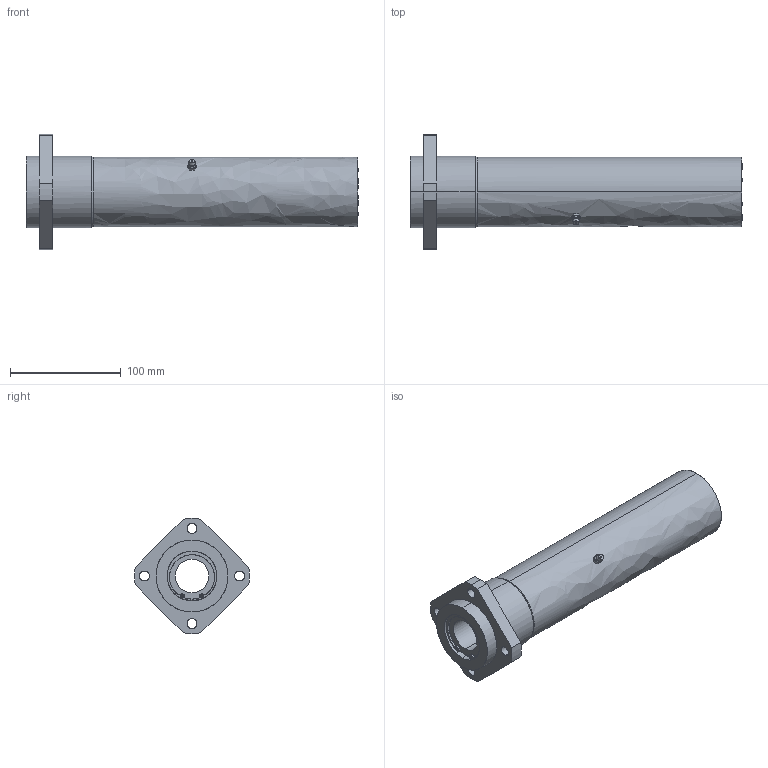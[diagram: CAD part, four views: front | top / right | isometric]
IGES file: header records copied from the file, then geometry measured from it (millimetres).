
Global section: file name: No Iges File Name specified; native system: AutoDesk Inventor R10; preprocessor: AutoDesk Inventor Iges Exporter R10; author: No Author specified; organization: No Organization specified; date: 20101214.141342; units: millimetre
Bounding box: 300 x 103.86 x 104 mm (x, y, z)
Surface area: 111000.3 mm2 (no closed solid volume)
Topology: 0 solids, 0 shells, 162 faces, 1145 edges, 1143 vertices
Faces by surface type: bspline 162
